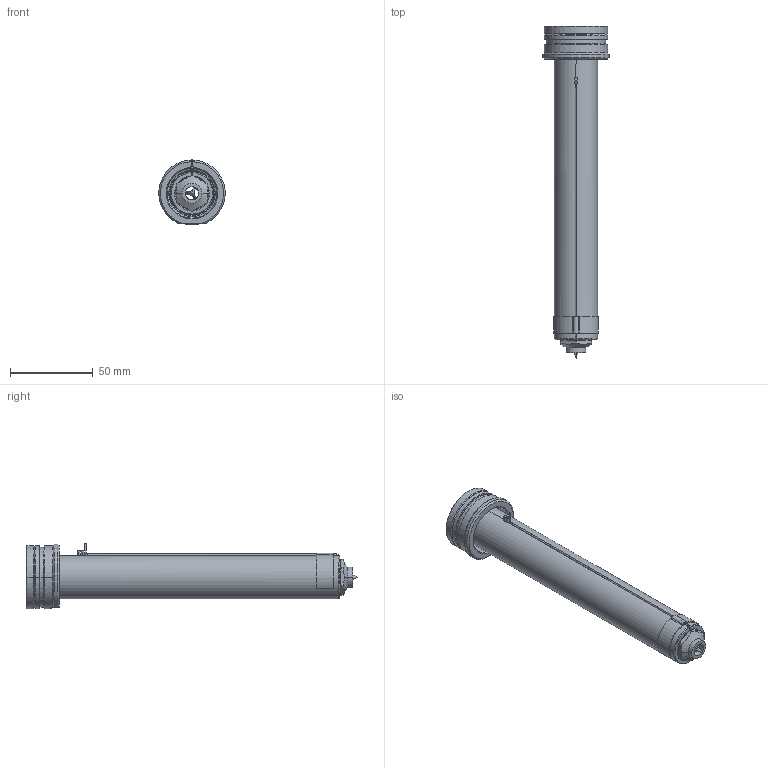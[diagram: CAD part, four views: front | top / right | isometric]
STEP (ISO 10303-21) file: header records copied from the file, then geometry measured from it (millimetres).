
FILE_DESCRIPTION((''),'2;1');
FILE_NAME('EO08_PG-BL_WR_180_SW','2024-02-19T11:07:22',('sundharh'),(''),'CREO PARAMETRIC BY PTC INC, 2023154','CREO PARAMETRIC BY PTC INC, 2023154','');
FILE_SCHEMA(('CONFIG_CONTROL_DESIGN'));
Length unit declared in the file: millimetre
Products named in the file (1): EO08_PG-BL_WR_180_SW
Bounding box: 39.88 x 200 x 39.52 mm (x, y, z)
Volume: 102373.7 mm3; surface area: 28331.4 mm2
Topology: 1 solids, 1 shells, 203 faces, 542 edges, 336 vertices
Faces by surface type: cylinder 79, plane 58, cone 41, torus 19, bspline 4, sphere 2
Entity records: 7967 total; most frequent: CARTESIAN_POINT 2784, DIRECTION 1140, ORIENTED_EDGE 1076, EDGE_CURVE 538, AXIS2_PLACEMENT_3D 476, VERTEX_POINT 336, CIRCLE 277, EDGE_LOOP 220
